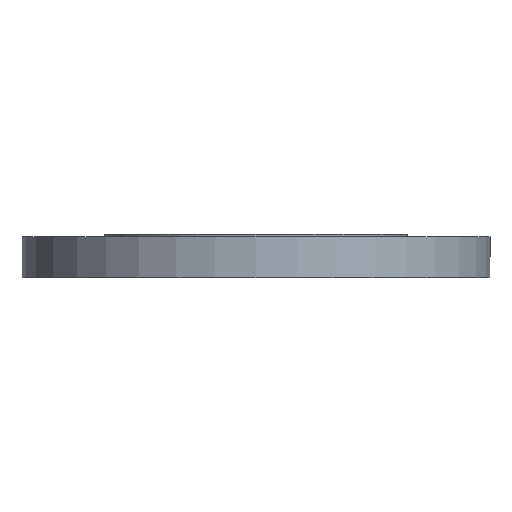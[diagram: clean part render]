
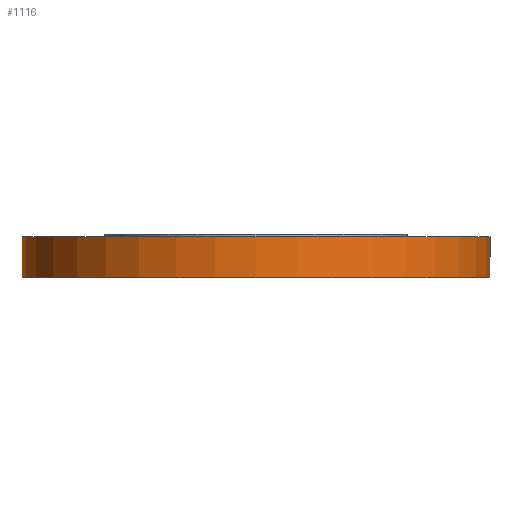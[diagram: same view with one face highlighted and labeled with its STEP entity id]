
A CAD part, front view. The second image highlights one B-rep face of the part: STEP entity #1116.
In plain terms, the highlighted cylindrical face has radius 225 mm (diameter 450 mm), a partial arc.
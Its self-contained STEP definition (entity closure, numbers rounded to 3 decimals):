
#20 = CARTESIAN_POINT ( 'NONE',  ( 225., 0., -42. ) ) ;
#75 = CARTESIAN_POINT ( 'NONE',  ( -225., 0., -42. ) ) ;
#124 = DIRECTION ( 'NONE',  ( 1., 0., 0. ) ) ;
#126 = DIRECTION ( 'NONE',  ( 0., 0., 1. ) ) ;
#127 = CARTESIAN_POINT ( 'NONE',  ( 0., 0., -115. ) ) ;
#128 = CYLINDRICAL_SURFACE ( 'NONE', #756, 225. ) ;
#129 = FACE_OUTER_BOUND ( 'NONE', #1129, .T. ) ;
#135 = DIRECTION ( 'NONE',  ( 0., 0., 1. ) ) ;
#136 = CARTESIAN_POINT ( 'NONE',  ( 225., 0., -115. ) ) ;
#137 = LINE ( 'NONE', #136, #1237 ) ;
#228 = DIRECTION ( 'NONE',  ( -1., 0., 0. ) ) ;
#229 = DIRECTION ( 'NONE',  ( 0., 0., -1. ) ) ;
#230 = CARTESIAN_POINT ( 'NONE',  ( 0., 0., -2.5 ) ) ;
#358 = VECTOR ( 'NONE', #565, 1000. ) ;
#389 = CARTESIAN_POINT ( 'NONE',  ( -225., 0., -2.5 ) ) ;
#409 = DIRECTION ( 'NONE',  ( -1., 0., 0. ) ) ;
#410 = DIRECTION ( 'NONE',  ( 0., 0., -1. ) ) ;
#411 = CARTESIAN_POINT ( 'NONE',  ( 0., 0., -42. ) ) ;
#545 = EDGE_CURVE ( 'NONE', #1156, #926, #568, .T. ) ;
#565 = DIRECTION ( 'NONE',  ( 0., 0., 1. ) ) ;
#566 = CARTESIAN_POINT ( 'NONE',  ( -225., 0., -115. ) ) ;
#568 = LINE ( 'NONE', #566, #358 ) ;
#619 = CIRCLE ( 'NONE', #640, 225. ) ;
#640 = AXIS2_PLACEMENT_3D ( 'NONE', #411, #410, #409 ) ;
#756 = AXIS2_PLACEMENT_3D ( 'NONE', #127, #126, #124 ) ;
#821 = CIRCLE ( 'NONE', #823, 225. ) ;
#823 = AXIS2_PLACEMENT_3D ( 'NONE', #230, #229, #228 ) ;
#824 = ORIENTED_EDGE ( 'NONE', *, *, #545, .F. ) ;
#826 = ORIENTED_EDGE ( 'NONE', *, *, #857, .F. ) ;
#830 = ORIENTED_EDGE ( 'NONE', *, *, #1113, .T. ) ;
#831 = ORIENTED_EDGE ( 'NONE', *, *, #1081, .T. ) ;
#857 = EDGE_CURVE ( 'NONE', #1204, #1156, #619, .T. ) ;
#926 = VERTEX_POINT ( 'NONE', #389 ) ;
#1081 = EDGE_CURVE ( 'NONE', #1253, #926, #821, .T. ) ;
#1113 = EDGE_CURVE ( 'NONE', #1204, #1253, #137, .T. ) ;
#1116 = ADVANCED_FACE ( 'NONE', ( #129 ), #128, .T. ) ;
#1129 = EDGE_LOOP ( 'NONE', ( #824, #826, #830, #831 ) ) ;
#1156 = VERTEX_POINT ( 'NONE', #75 ) ;
#1204 = VERTEX_POINT ( 'NONE', #20 ) ;
#1237 = VECTOR ( 'NONE', #135, 1000. ) ;
#1253 = VERTEX_POINT ( 'NONE', #1282 ) ;
#1282 = CARTESIAN_POINT ( 'NONE',  ( 225., 0., -2.5 ) ) ;
